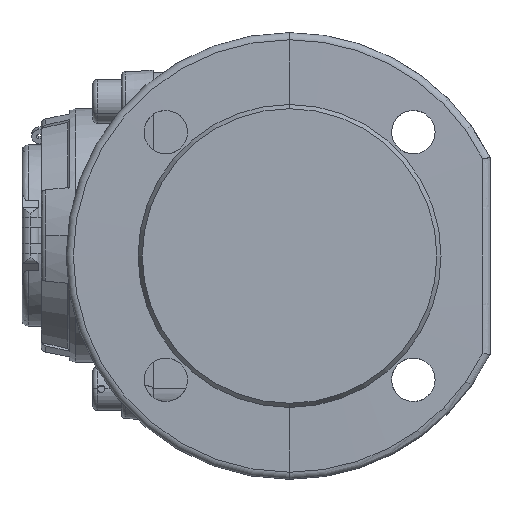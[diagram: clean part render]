
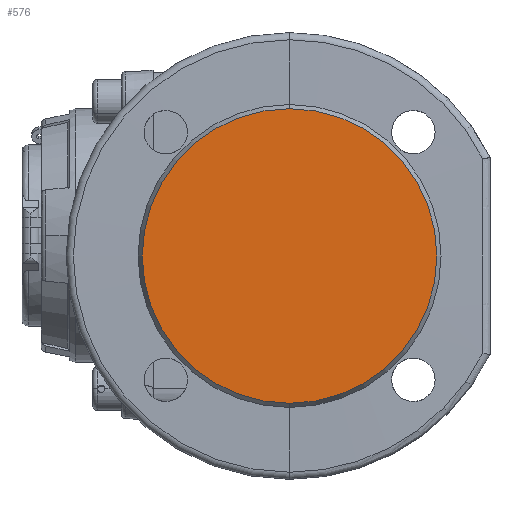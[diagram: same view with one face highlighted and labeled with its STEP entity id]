
A CAD part, left-side view. The second image highlights one B-rep face of the part: STEP entity #576.
In plain terms, the highlighted planar face has unit normal (-1, 0, 0).
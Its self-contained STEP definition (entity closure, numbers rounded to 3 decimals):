
#576 = ADVANCED_FACE ( 'NONE', ( #45760 ), #4569, .F. ) ;
#2105 = CARTESIAN_POINT ( 'NONE',  ( -100., 0., 61. ) ) ;
#2630 = EDGE_CURVE ( 'NONE', #26337, #12346, #25502, .T. ) ;
#3049 = ORIENTED_EDGE ( 'NONE', *, *, #21739, .T. ) ;
#4569 = PLANE ( 'NONE',  #11906 ) ;
#6387 = AXIS2_PLACEMENT_3D ( 'NONE', #20547, #42636, #38093 ) ;
#6621 = DIRECTION ( 'NONE',  ( 0., 0., 1. ) ) ;
#7093 = AXIS2_PLACEMENT_3D ( 'NONE', #19994, #57801, #6621 ) ;
#10780 = EDGE_LOOP ( 'NONE', ( #36363, #3049 ) ) ;
#11906 = AXIS2_PLACEMENT_3D ( 'NONE', #22452, #40918, #54838 ) ;
#12346 = VERTEX_POINT ( 'NONE', #26943 ) ;
#19994 = CARTESIAN_POINT ( 'NONE',  ( -100., 0., 0. ) ) ;
#20547 = CARTESIAN_POINT ( 'NONE',  ( -100., 0., 0. ) ) ;
#21739 = EDGE_CURVE ( 'NONE', #12346, #26337, #47982, .T. ) ;
#22452 = CARTESIAN_POINT ( 'NONE',  ( -100., 0., 0. ) ) ;
#25502 = CIRCLE ( 'NONE', #7093, 61. ) ;
#26337 = VERTEX_POINT ( 'NONE', #2105 ) ;
#26943 = CARTESIAN_POINT ( 'NONE',  ( -100., 0., -61. ) ) ;
#36363 = ORIENTED_EDGE ( 'NONE', *, *, #2630, .T. ) ;
#38093 = DIRECTION ( 'NONE',  ( 0., 0., 1. ) ) ;
#40918 = DIRECTION ( 'NONE',  ( 1., 0., 0. ) ) ;
#42636 = DIRECTION ( 'NONE',  ( -1., 0., 0. ) ) ;
#45760 = FACE_OUTER_BOUND ( 'NONE', #10780, .T. ) ;
#47982 = CIRCLE ( 'NONE', #6387, 61. ) ;
#54838 = DIRECTION ( 'NONE',  ( 0., 0., 1. ) ) ;
#57801 = DIRECTION ( 'NONE',  ( -1., 0., 0. ) ) ;
